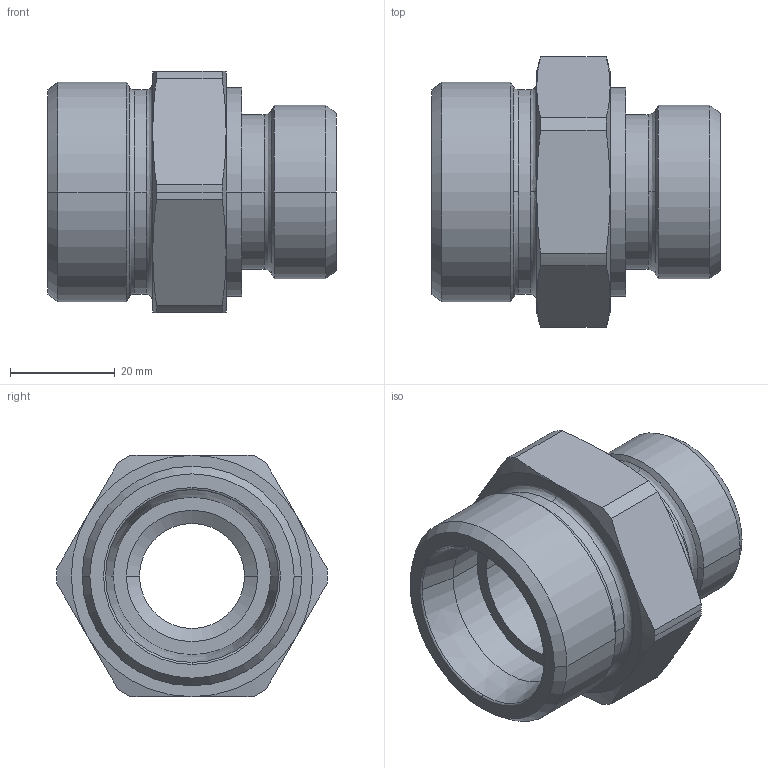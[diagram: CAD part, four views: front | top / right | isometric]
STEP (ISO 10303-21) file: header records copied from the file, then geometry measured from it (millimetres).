
FILE_DESCRIPTION((''),'2;1');
FILE_NAME('100540.stp','2007-10-30T14:34:20',(''),(''),'AutoCAD STEP 2000i','AutoCAD 2000i',', , ');
FILE_SCHEMA(('CONFIG_CONTROL_DESIGN'));
Length unit declared in the file: millimetre
Products named in the file (2): 100540.0; CHIAVE SMUSSATA#0
Assembly tree (1 placements, depth 2):
  100540.0
    CHIAVE SMUSSATA#0
Bounding box: 55 x 51.6 x 46 mm (x, y, z)
Volume: 43693.7 mm3; surface area: 14277.7 mm2
Topology: 1 solids, 1 shells, 79 faces, 193 edges, 121 vertices
Faces by surface type: cylinder 26, cone 26, plane 13, bspline 12, torus 2
Entity records: 2935 total; most frequent: CARTESIAN_POINT 971, DIRECTION 430, ORIENTED_EDGE 386, EDGE_CURVE 193, AXIS2_PLACEMENT_3D 192, CIRCLE 123, VERTEX_POINT 121, EDGE_LOOP 86
